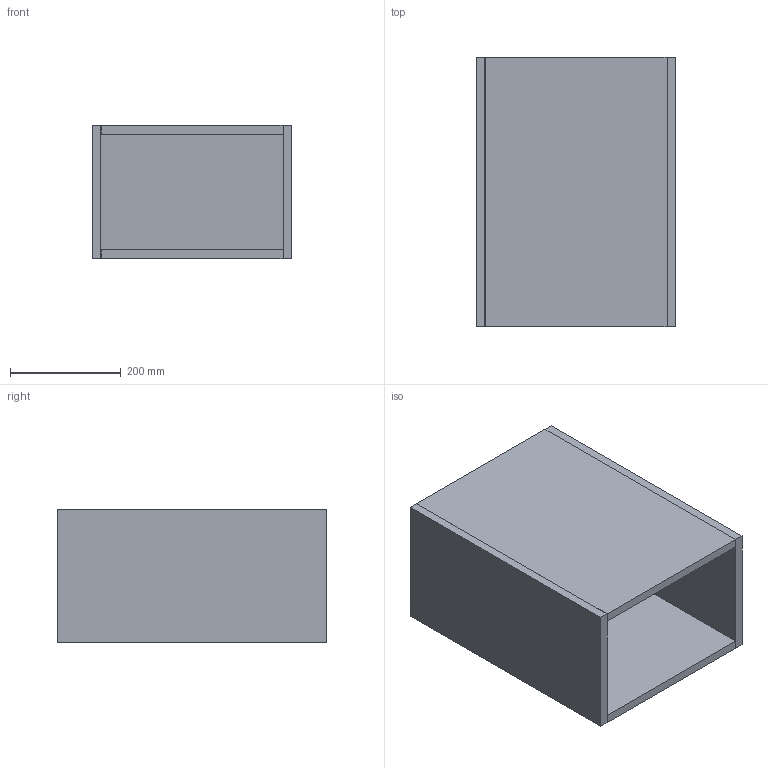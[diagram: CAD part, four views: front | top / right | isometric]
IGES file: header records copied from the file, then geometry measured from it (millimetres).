
Start section: Data from Parasolid IGES Translator 19.0.9, Copyright(c) 2006 Siemens PL M Software. All Rights Reserved.
Global section: file name: noorth-SI-H 24 D 51 W 36_8316.igs; native system: By Siemens PLM Incorporated; preprocessor: XPlus GENERIC/IGES 19.0.9; author: Noname; organization: Noname; date: 20200530.121427; units: metre
Bounding box: 360.01 x 486.06 x 240 mm (x, y, z)
Volume: 9028370.5 mm3; surface area: 1342228.6 mm2
Topology: 5 solids, 5 shells, 30 faces, 60 edges, 40 vertices
Faces by surface type: plane 30
